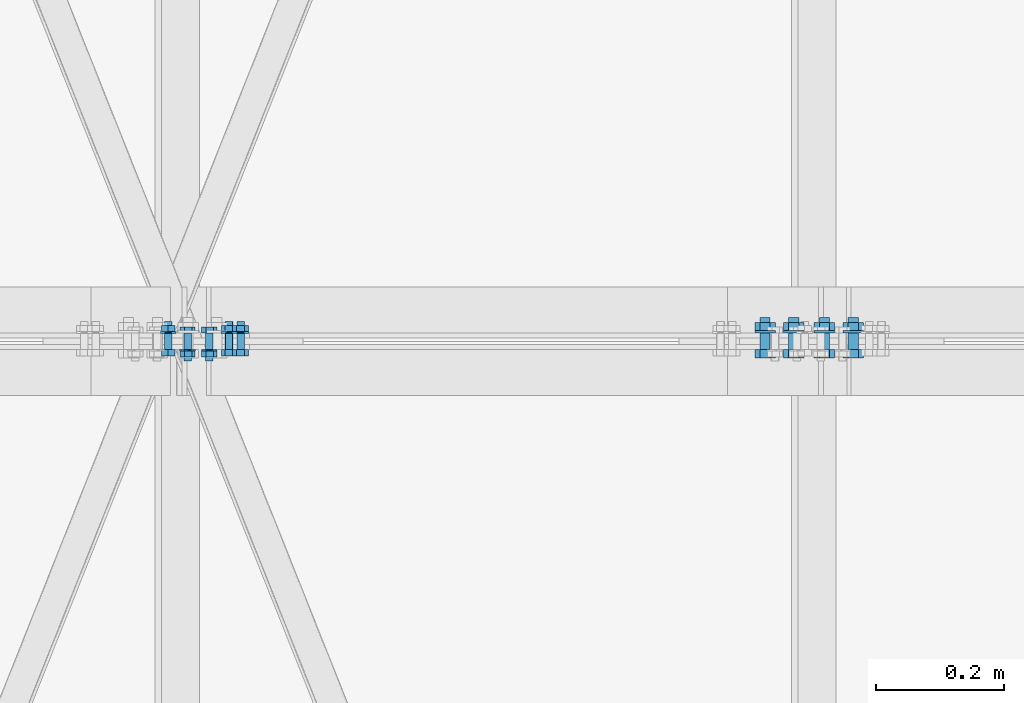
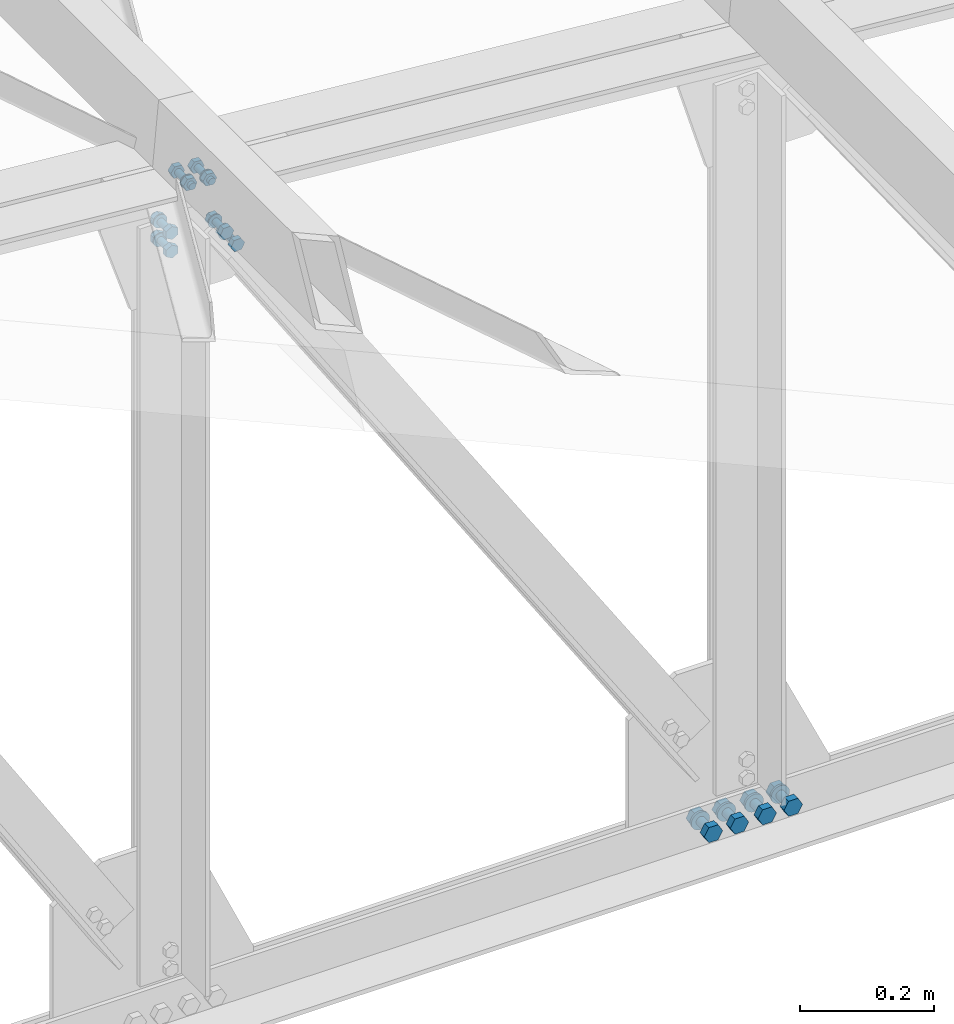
# One storey, part 151 of 251: 40 mechanical fasteners.
"""IFC4 building model written with IfcOpenShell, lengths in metres."""

from ifc_helpers import new_model, si_unit, frame, origin_with_axes, place, context, project, spatial, polyline, outline, extrude, type_object, element, save


model = new_model("IFC4")

# Units and contexts
model_context = context("Model", 3, precision=1e-05, world=origin_with_axes())
ifc_project = project(units=[si_unit("LENGTHUNIT", "METRE"), si_unit("AREAUNIT", "SQUARE_METRE"), si_unit("VOLUMEUNIT", "CUBIC_METRE"), si_unit("MASSUNIT", "GRAM", prefix="KILO"), si_unit("TIMEUNIT", "SECOND"), si_unit("PLANEANGLEUNIT", "RADIAN"), si_unit("SOLIDANGLEUNIT", "STERADIAN"), si_unit("THERMODYNAMICTEMPERATUREUNIT", "DEGREE_CELSIUS")], contexts=[model_context])

# Site, building, storey
placement_1 = place(None, origin_with_axes())
site = spatial("IfcSite", under=ifc_project, at=placement_1, Name="Italia", CompositionType="ELEMENT")
building = spatial("IfcBuilding", under=site, at=placement_1, Name="Deposito", CompositionType="ELEMENT")
storey = spatial("IfcBuildingStorey", under=building, at=placement_1, Name="Storey 0", CompositionType="ELEMENT", Elevation=0.0)

# Mechanical fasteners
mechanical_fastener_type_1 = type_object("IfcMechanicalFastenerType", Name="Reticolare 4", PredefinedType="BOLT")
placement_2 = place(placement_1, origin_with_axes())
mechanical_fastener_1_placement = place(placement_2, origin_with_axes())
element("IfcMechanicalFastener", 1, at=mechanical_fastener_1_placement, inside=storey, type_object=mechanical_fastener_type_1, Name="Reticolare 4", NominalDiameter=0.0159997, context=model_context, shape_type="SweptSolid", body=[
    extrude(outline(polyline([(0.0, 0.0), (-0.0159998, 0.0), (-0.0240002, 0.0138564), (-0.0159998, 0.0277128), (0.0, 0.0277128), (0.00799942, 0.0138564), (0.0, 0.0)])), frame((15.003, 9.987, 4.99714), z_axis=(0.0, -1.0, 0.0), x_axis=(1.0, 0.0, 0.0)), (0.0, 0.0, 1.0), 0.0128002),
])
mechanical_fastener_type_2 = type_object("IfcMechanicalFastenerType", Name="Reticolare 4", PredefinedType="BOLT")
mechanical_fastener_2_placement = place(placement_2, origin_with_axes())
element("IfcMechanicalFastener", 2, at=mechanical_fastener_2_placement, inside=storey, type_object=mechanical_fastener_type_2, Name="Reticolare 4", NominalDiameter=0.016, context=model_context, shape_type="SweptSolid", body=[
    extrude(outline(polyline([(0.0, 0.0), (-0.000272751, -0.00207043), (-0.00107193, -0.00400019), (-0.00234318, -0.00565672), (-0.00400066, -0.00692797), (-0.00592995, -0.00772762), (-0.00800037, -0.0079999), (-0.0100708, -0.00772762), (-0.0120001, -0.00692797), (-0.0136576, -0.00565672), (-0.0149288, -0.00400019), (-0.015728, -0.00207043), (-0.0160007, 0.0), (-0.015728, 0.00207043), (-0.0149288, 0.00400019), (-0.0136576, 0.00565672), (-0.0120001, 0.00692797), (-0.0100708, 0.00772762), (-0.00800037, 0.0079999), (-0.00592995, 0.00772762), (-0.00400066, 0.00692797), (-0.00234318, 0.00565672), (-0.00107193, 0.00400019), (-0.000272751, 0.00207043), (0.0, 0.0)])), frame((15.003, 10.037, 5.011), z_axis=(0.0, -1.0, 0.0), x_axis=(1.0, 0.0, 0.0)), (0.0, 0.0, 1.0), 0.0499992),
])
mechanical_fastener_type_3 = type_object("IfcMechanicalFastenerType", Name="Reticolare 4", PredefinedType="BOLT")
mechanical_fastener_3_placement = place(placement_2, origin_with_axes())
element("IfcMechanicalFastener", 3, at=mechanical_fastener_3_placement, inside=storey, type_object=mechanical_fastener_type_3, Name="Reticolare 4", NominalDiameter=0.0159997, context=model_context, shape_type="SweptSolid", body=[
    extrude(outline(polyline([(0.0, 0.0), (-0.0159998, 0.0), (-0.0240002, 0.0138564), (-0.0159998, 0.0277128), (0.0, 0.0277128), (0.00799942, 0.0138564), (0.0, 0.0)])), frame((15.003, 10.0298, 4.99714), z_axis=(0.0, -1.0, 0.0), x_axis=(1.0, 0.0, 0.0)), (0.0, 0.0, 1.0), 0.0128002),
])
mechanical_fastener_type_4 = type_object("IfcMechanicalFastenerType", Name="Reticolare 4", PredefinedType="BOLT")
mechanical_fastener_4_placement = place(placement_2, origin_with_axes())
element("IfcMechanicalFastener", 4, at=mechanical_fastener_4_placement, inside=storey, type_object=mechanical_fastener_type_4, Name="Reticolare 4", NominalDiameter=0.032, context=model_context, shape_type="SweptSolid", body=[
    extrude(outline(polyline([(0.0, 0.0), (-0.000544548, -0.00414133), (-0.00214386, -0.0079999), (-0.00468636, -0.0113139), (-0.00799942, -0.0138564), (-0.0118589, -0.0154548), (-0.0159998, -0.0159998), (-0.0201406, -0.0154548), (-0.0240002, -0.0138564), (-0.0273132, -0.0113139), (-0.0298557, -0.0079999), (-0.031455, -0.00414133), (-0.0319996, 0.0), (-0.031455, 0.00414133), (-0.0298557, 0.0079999), (-0.0273132, 0.0113139), (-0.0240002, 0.0138564), (-0.0201406, 0.0154548), (-0.0159998, 0.0159998), (-0.0118589, 0.0154548), (-0.00799942, 0.0138564), (-0.00468636, 0.0113139), (-0.00214386, 0.0079999), (-0.000544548, 0.00414133), (0.0, 0.0)])), frame((15.011, 10.017, 5.011), z_axis=(0.0, -1.0, 0.0), x_axis=(1.0, 0.0, 0.0)), (0.0, 0.0, 1.0), 0.00400066),
])
mechanical_fastener_type_5 = type_object("IfcMechanicalFastenerType", Name="Reticolare 4", PredefinedType="BOLT")
mechanical_fastener_5_placement = place(placement_2, origin_with_axes())
element("IfcMechanicalFastener", 5, at=mechanical_fastener_5_placement, inside=storey, type_object=mechanical_fastener_type_5, Name="Reticolare 4", NominalDiameter=0.0159997, context=model_context, shape_type="SweptSolid", body=[
    extrude(outline(polyline([(0.0, 0.0), (-0.0159998, 0.0), (-0.0240002, 0.0138564), (-0.0159998, 0.0277128), (0.0, 0.0277128), (0.00799942, 0.0138564), (0.0, 0.0)])), frame((14.958, 9.987, 4.99714), z_axis=(0.0, -1.0, 0.0), x_axis=(1.0, 0.0, 0.0)), (0.0, 0.0, 1.0), 0.0128002),
])
mechanical_fastener_type_6 = type_object("IfcMechanicalFastenerType", Name="Reticolare 4", PredefinedType="BOLT")
mechanical_fastener_6_placement = place(placement_2, origin_with_axes())
element("IfcMechanicalFastener", 6, at=mechanical_fastener_6_placement, inside=storey, type_object=mechanical_fastener_type_6, Name="Reticolare 4", NominalDiameter=0.016, context=model_context, shape_type="SweptSolid", body=[
    extrude(outline(polyline([(0.0, 0.0), (-0.000272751, -0.00207043), (-0.00107193, -0.00400019), (-0.00234318, -0.00565672), (-0.00400066, -0.00692797), (-0.00592995, -0.00772762), (-0.00800037, -0.0079999), (-0.0100708, -0.00772762), (-0.0120001, -0.00692797), (-0.0136576, -0.00565672), (-0.0149288, -0.00400019), (-0.015728, -0.00207043), (-0.0160007, 0.0), (-0.015728, 0.00207043), (-0.0149288, 0.00400019), (-0.0136576, 0.00565672), (-0.0120001, 0.00692797), (-0.0100708, 0.00772762), (-0.00800037, 0.0079999), (-0.00592995, 0.00772762), (-0.00400066, 0.00692797), (-0.00234318, 0.00565672), (-0.00107193, 0.00400019), (-0.000272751, 0.00207043), (0.0, 0.0)])), frame((14.958, 10.037, 5.011), z_axis=(0.0, -1.0, 0.0), x_axis=(1.0, 0.0, 0.0)), (0.0, 0.0, 1.0), 0.0499992),
])
mechanical_fastener_type_7 = type_object("IfcMechanicalFastenerType", Name="Reticolare 4", PredefinedType="BOLT")
mechanical_fastener_7_placement = place(placement_2, origin_with_axes())
element("IfcMechanicalFastener", 7, at=mechanical_fastener_7_placement, inside=storey, type_object=mechanical_fastener_type_7, Name="Reticolare 4", NominalDiameter=0.0159997, context=model_context, shape_type="SweptSolid", body=[
    extrude(outline(polyline([(0.0, 0.0), (-0.0159998, 0.0), (-0.0240002, 0.0138564), (-0.0159998, 0.0277128), (0.0, 0.0277128), (0.00799942, 0.0138564), (0.0, 0.0)])), frame((14.958, 10.0298, 4.99714), z_axis=(0.0, -1.0, 0.0), x_axis=(1.0, 0.0, 0.0)), (0.0, 0.0, 1.0), 0.0128002),
])
mechanical_fastener_type_8 = type_object("IfcMechanicalFastenerType", Name="Reticolare 4", PredefinedType="BOLT")
mechanical_fastener_8_placement = place(placement_2, origin_with_axes())
element("IfcMechanicalFastener", 8, at=mechanical_fastener_8_placement, inside=storey, type_object=mechanical_fastener_type_8, Name="Reticolare 4", NominalDiameter=0.032, context=model_context, shape_type="SweptSolid", body=[
    extrude(outline(polyline([(0.0, 0.0), (-0.000544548, -0.00414133), (-0.00214386, -0.0079999), (-0.00468636, -0.0113139), (-0.00799942, -0.0138564), (-0.0118589, -0.0154548), (-0.0159998, -0.0159998), (-0.0201406, -0.0154548), (-0.0240002, -0.0138564), (-0.0273132, -0.0113139), (-0.0298557, -0.0079999), (-0.031455, -0.00414133), (-0.0319996, 0.0), (-0.031455, 0.00414133), (-0.0298557, 0.0079999), (-0.0273132, 0.0113139), (-0.0240002, 0.0138564), (-0.0201406, 0.0154548), (-0.0159998, 0.0159998), (-0.0118589, 0.0154548), (-0.00799942, 0.0138564), (-0.00468636, 0.0113139), (-0.00214386, 0.0079999), (-0.000544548, 0.00414133), (0.0, 0.0)])), frame((14.966, 10.017, 5.011), z_axis=(0.0, -1.0, 0.0), x_axis=(1.0, 0.0, 0.0)), (0.0, 0.0, 1.0), 0.00400066),
])
mechanical_fastener_type_9 = type_object("IfcMechanicalFastenerType", Name="Reticolare 4", PredefinedType="BOLT")
mechanical_fastener_9_placement = place(placement_2, origin_with_axes())
element("IfcMechanicalFastener", 9, at=mechanical_fastener_9_placement, inside=storey, type_object=mechanical_fastener_type_9, Name="Reticolare 4", NominalDiameter=0.0159997, context=model_context, shape_type="SweptSolid", body=[
    extrude(outline(polyline([(0.0, 0.0), (-0.0159998, 0.0), (-0.0239992, 0.0138564), (-0.0159998, 0.0277128), (0.0, 0.0277128), (0.00800037, 0.0138564), (0.0, 0.0)])), frame((15.051, 9.987, 4.99714), z_axis=(0.0, -1.0, 0.0), x_axis=(1.0, 0.0, 0.0)), (0.0, 0.0, 1.0), 0.0128002),
])
mechanical_fastener_type_10 = type_object("IfcMechanicalFastenerType", Name="Reticolare 4", PredefinedType="BOLT")
mechanical_fastener_10_placement = place(placement_2, origin_with_axes())
element("IfcMechanicalFastener", 10, at=mechanical_fastener_10_placement, inside=storey, type_object=mechanical_fastener_type_10, Name="Reticolare 4", NominalDiameter=0.016, context=model_context, shape_type="SweptSolid", body=[
    extrude(outline(polyline([(0.0, 0.0), (-0.000272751, -0.00207043), (-0.00107193, -0.00400019), (-0.00234318, -0.00565672), (-0.00400066, -0.00692797), (-0.00592995, -0.00772762), (-0.00800037, -0.0079999), (-0.0100708, -0.00772762), (-0.0120001, -0.00692797), (-0.0136576, -0.00565672), (-0.0149288, -0.00400019), (-0.015728, -0.00207043), (-0.0160007, 0.0), (-0.015728, 0.00207043), (-0.0149288, 0.00400019), (-0.0136576, 0.00565672), (-0.0120001, 0.00692797), (-0.0100708, 0.00772762), (-0.00800037, 0.0079999), (-0.00592995, 0.00772762), (-0.00400066, 0.00692797), (-0.00234318, 0.00565672), (-0.00107193, 0.00400019), (-0.000272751, 0.00207043), (0.0, 0.0)])), frame((15.051, 10.037, 5.011), z_axis=(0.0, -1.0, 0.0), x_axis=(1.0, 0.0, 0.0)), (0.0, 0.0, 1.0), 0.0499992),
])
mechanical_fastener_type_11 = type_object("IfcMechanicalFastenerType", Name="Reticolare 4", PredefinedType="BOLT")
mechanical_fastener_11_placement = place(placement_2, origin_with_axes())
element("IfcMechanicalFastener", 11, at=mechanical_fastener_11_placement, inside=storey, type_object=mechanical_fastener_type_11, Name="Reticolare 4", NominalDiameter=0.0159997, context=model_context, shape_type="SweptSolid", body=[
    extrude(outline(polyline([(0.0, 0.0), (-0.0159998, 0.0), (-0.0239992, 0.0138564), (-0.0159998, 0.0277128), (0.0, 0.0277128), (0.00800037, 0.0138564), (0.0, 0.0)])), frame((15.051, 10.0298, 4.99714), z_axis=(0.0, -1.0, 0.0), x_axis=(1.0, 0.0, 0.0)), (0.0, 0.0, 1.0), 0.0128002),
])
mechanical_fastener_type_12 = type_object("IfcMechanicalFastenerType", Name="Reticolare 4", PredefinedType="BOLT")
mechanical_fastener_12_placement = place(placement_2, origin_with_axes())
element("IfcMechanicalFastener", 12, at=mechanical_fastener_12_placement, inside=storey, type_object=mechanical_fastener_type_12, Name="Reticolare 4", NominalDiameter=0.032, context=model_context, shape_type="SweptSolid", body=[
    extrude(outline(polyline([(0.0, 0.0), (-0.000544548, -0.00414133), (-0.00214386, -0.0079999), (-0.00468636, -0.0113139), (-0.00799942, -0.0138564), (-0.0118589, -0.0154548), (-0.0159998, -0.0159998), (-0.0201406, -0.0154548), (-0.0240002, -0.0138564), (-0.0273132, -0.0113139), (-0.0298557, -0.0079999), (-0.031455, -0.00414133), (-0.0319996, 0.0), (-0.031455, 0.00414133), (-0.0298557, 0.0079999), (-0.0273132, 0.0113139), (-0.0240002, 0.0138564), (-0.0201406, 0.0154548), (-0.0159998, 0.0159998), (-0.0118589, 0.0154548), (-0.00799942, 0.0138564), (-0.00468636, 0.0113139), (-0.00214386, 0.0079999), (-0.000544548, 0.00414133), (0.0, 0.0)])), frame((15.059, 10.017, 5.011), z_axis=(0.0, -1.0, 0.0), x_axis=(1.0, 0.0, 0.0)), (0.0, 0.0, 1.0), 0.00400066),
])
mechanical_fastener_type_13 = type_object("IfcMechanicalFastenerType", Name="Reticolare 4", PredefinedType="BOLT")
mechanical_fastener_13_placement = place(placement_2, origin_with_axes())
element("IfcMechanicalFastener", 13, at=mechanical_fastener_13_placement, inside=storey, type_object=mechanical_fastener_type_13, Name="Reticolare 4", NominalDiameter=0.0159997, context=model_context, shape_type="SweptSolid", body=[
    extrude(outline(polyline([(0.0, 0.0), (-0.0159998, 0.0), (-0.0239992, 0.0138564), (-0.0159998, 0.0277128), (0.0, 0.0277128), (0.00800037, 0.0138564), (0.0, 0.0)])), frame((15.096, 9.987, 4.99714), z_axis=(0.0, -1.0, 0.0), x_axis=(1.0, 0.0, 0.0)), (0.0, 0.0, 1.0), 0.0128002),
])
mechanical_fastener_type_14 = type_object("IfcMechanicalFastenerType", Name="Reticolare 4", PredefinedType="BOLT")
mechanical_fastener_14_placement = place(placement_2, origin_with_axes())
element("IfcMechanicalFastener", 14, at=mechanical_fastener_14_placement, inside=storey, type_object=mechanical_fastener_type_14, Name="Reticolare 4", NominalDiameter=0.016, context=model_context, shape_type="SweptSolid", body=[
    extrude(outline(polyline([(0.0, 0.0), (-0.000272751, -0.00207043), (-0.00107193, -0.00400019), (-0.00234318, -0.00565672), (-0.00400066, -0.00692797), (-0.00592995, -0.00772762), (-0.00800037, -0.0079999), (-0.0100708, -0.00772762), (-0.0120001, -0.00692797), (-0.0136576, -0.00565672), (-0.0149288, -0.00400019), (-0.015728, -0.00207043), (-0.0160007, 0.0), (-0.015728, 0.00207043), (-0.0149288, 0.00400019), (-0.0136576, 0.00565672), (-0.0120001, 0.00692797), (-0.0100708, 0.00772762), (-0.00800037, 0.0079999), (-0.00592995, 0.00772762), (-0.00400066, 0.00692797), (-0.00234318, 0.00565672), (-0.00107193, 0.00400019), (-0.000272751, 0.00207043), (0.0, 0.0)])), frame((15.096, 10.037, 5.011), z_axis=(0.0, -1.0, 0.0), x_axis=(1.0, 0.0, 0.0)), (0.0, 0.0, 1.0), 0.0499992),
])
mechanical_fastener_type_15 = type_object("IfcMechanicalFastenerType", Name="Reticolare 4", PredefinedType="BOLT")
mechanical_fastener_15_placement = place(placement_2, origin_with_axes())
element("IfcMechanicalFastener", 15, at=mechanical_fastener_15_placement, inside=storey, type_object=mechanical_fastener_type_15, Name="Reticolare 4", NominalDiameter=0.0159997, context=model_context, shape_type="SweptSolid", body=[
    extrude(outline(polyline([(0.0, 0.0), (-0.0159998, 0.0), (-0.0239992, 0.0138564), (-0.0159998, 0.0277128), (0.0, 0.0277128), (0.00800037, 0.0138564), (0.0, 0.0)])), frame((15.096, 10.0298, 4.99714), z_axis=(0.0, -1.0, 0.0), x_axis=(1.0, 0.0, 0.0)), (0.0, 0.0, 1.0), 0.0128002),
])
mechanical_fastener_type_16 = type_object("IfcMechanicalFastenerType", Name="Reticolare 4", PredefinedType="BOLT")
mechanical_fastener_16_placement = place(placement_2, origin_with_axes())
element("IfcMechanicalFastener", 16, at=mechanical_fastener_16_placement, inside=storey, type_object=mechanical_fastener_type_16, Name="Reticolare 4", NominalDiameter=0.032, context=model_context, shape_type="SweptSolid", body=[
    extrude(outline(polyline([(0.0, 0.0), (-0.000544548, -0.00414133), (-0.00214386, -0.0079999), (-0.00468636, -0.0113139), (-0.00799942, -0.0138564), (-0.0118589, -0.0154548), (-0.0159998, -0.0159998), (-0.0201406, -0.0154548), (-0.0240002, -0.0138564), (-0.0273132, -0.0113139), (-0.0298557, -0.0079999), (-0.031455, -0.00414133), (-0.0319996, 0.0), (-0.031455, 0.00414133), (-0.0298557, 0.0079999), (-0.0273132, 0.0113139), (-0.0240002, 0.0138564), (-0.0201406, 0.0154548), (-0.0159998, 0.0159998), (-0.0118589, 0.0154548), (-0.00799942, 0.0138564), (-0.00468636, 0.0113139), (-0.00214386, 0.0079999), (-0.000544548, 0.00414133), (0.0, 0.0)])), frame((15.104, 10.017, 5.011), z_axis=(0.0, -1.0, 0.0), x_axis=(1.0, 0.0, 0.0)), (0.0, 0.0, 1.0), 0.00400066),
])
mechanical_fastener_type_17 = type_object("IfcMechanicalFastenerType", Name="Reticolare 4", PredefinedType="BOLT")
mechanical_fastener_17_placement = place(placement_2, origin_with_axes())
element("IfcMechanicalFastener", 17, at=mechanical_fastener_17_placement, inside=storey, type_object=mechanical_fastener_type_17, Name="Reticolare 4", NominalDiameter=0.0119997, context=model_context, shape_type="SweptSolid", body=[
    extrude(outline(polyline([(0.0, 0.0), (0.0119543, 0.0010457), (0.0188379, -0.00878429), (0.0137663, -0.01966), (0.00181198, -0.0207057), (-0.00507069, -0.0108757), (0.0, 0.0)])), frame((14.053, 10.013, 6.5237), z_axis=(0.0, 1.0, 0.0), x_axis=(-1.0, 0.0, 0.0)), (0.0, 0.0, 1.0), 0.00960064),
])
mechanical_fastener_type_18 = type_object("IfcMechanicalFastenerType", Name="Reticolare 4", PredefinedType="BOLT")
mechanical_fastener_18_placement = place(placement_2, origin_with_axes())
element("IfcMechanicalFastener", 18, at=mechanical_fastener_18_placement, inside=storey, type_object=mechanical_fastener_type_18, Name="Reticolare 4", NominalDiameter=0.012, context=model_context, shape_type="SweptSolid", body=[
    extrude(outline(polyline([(0.0, 0.0), (-0.000204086, -0.00155306), (-0.000802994, -0.00299978), (-0.00175667, -0.00424242), (-0.00299931, -0.00519609), (-0.00444698, -0.00579548), (-0.00599957, -0.00600004), (-0.00755215, -0.00579548), (-0.00899982, -0.00519609), (-0.0102425, -0.00424242), (-0.0111961, -0.00299978), (-0.011795, -0.00155306), (-0.0119991, 0.0), (-0.011795, 0.00155306), (-0.0111961, 0.00299978), (-0.0102425, 0.00424242), (-0.00899982, 0.00519609), (-0.00755215, 0.00579548), (-0.00599957, 0.00600004), (-0.00444698, 0.00579548), (-0.00299931, 0.00519609), (-0.00175667, 0.00424242), (-0.000802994, 0.00299978), (-0.000204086, 0.00155306), (0.0, 0.0)])), frame((14.0402, 9.969, 6.51387), z_axis=(0.0, 1.0, 0.0), x_axis=(-1.0, 0.0, 0.0)), (0.0, 0.0, 1.0), 0.0439997),
])
mechanical_fastener_type_19 = type_object("IfcMechanicalFastenerType", Name="Reticolare 4", PredefinedType="BOLT")
mechanical_fastener_19_placement = place(placement_2, origin_with_axes())
element("IfcMechanicalFastener", 19, at=mechanical_fastener_19_placement, inside=storey, type_object=mechanical_fastener_type_19, Name="Reticolare 4", NominalDiameter=0.0119997, context=model_context, shape_type="SweptSolid", body=[
    extrude(outline(polyline([(0.0, 0.0), (0.0119543, 0.0010457), (0.0188379, -0.00878429), (0.0137663, -0.01966), (0.00181198, -0.0207057), (-0.00507069, -0.0108757), (0.0, 0.0)])), frame((14.053, 9.9754, 6.5237), z_axis=(0.0, 1.0, 0.0), x_axis=(-1.0, 0.0, 0.0)), (0.0, 0.0, 1.0), 0.00959969),
])
mechanical_fastener_type_20 = type_object("IfcMechanicalFastenerType", Name="Reticolare 4", PredefinedType="BOLT")
mechanical_fastener_20_placement = place(placement_2, origin_with_axes())
element("IfcMechanicalFastener", 20, at=mechanical_fastener_20_placement, inside=storey, type_object=mechanical_fastener_type_20, Name="Reticolare 4", NominalDiameter=0.024, context=model_context, shape_type="SweptSolid", body=[
    extrude(outline(polyline([(0.0, 0.0), (-0.000409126, -0.00310564), (-0.00160789, -0.00600004), (-0.00351524, -0.00848532), (-0.00600052, -0.0103922), (-0.00889397, -0.011591), (-0.0120001, -0.0120001), (-0.0151062, -0.011591), (-0.0179996, -0.0103922), (-0.0204849, -0.00848532), (-0.0223923, -0.00600004), (-0.023591, -0.00310564), (-0.0240002, 0.0), (-0.023591, 0.00310564), (-0.0223923, 0.00600004), (-0.0204849, 0.00848532), (-0.0179996, 0.0103922), (-0.0151062, 0.011591), (-0.0120001, 0.0120001), (-0.00889397, 0.011591), (-0.00600052, 0.0103922), (-0.00351524, 0.00848532), (-0.00160789, 0.00600004), (-0.000409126, 0.00310564), (0.0, 0.0)])), frame((14.0342, 9.985, 6.51387), z_axis=(0.0, 1.0, 0.0), x_axis=(-1.0, 0.0, 0.0)), (0.0, 0.0, 1.0), 0.00200081),
])
mechanical_fastener_type_21 = type_object("IfcMechanicalFastenerType", Name="Reticolare 4", PredefinedType="BOLT")
mechanical_fastener_21_placement = place(placement_2, origin_with_axes())
element("IfcMechanicalFastener", 21, at=mechanical_fastener_21_placement, inside=storey, type_object=mechanical_fastener_type_21, Name="Reticolare 4", NominalDiameter=0.0119996, context=model_context, shape_type="SweptSolid", body=[
    extrude(outline(polyline([(0.0, 0.0), (0.0119543, 0.0010457), (0.0188379, -0.00878382), (0.0137663, -0.0196595), (0.00181198, -0.0207052), (-0.00507069, -0.0108757), (0.0, 0.0)])), frame((14.0869, 10.013, 6.52073), z_axis=(0.0, 1.0, 0.0), x_axis=(-1.0, 0.0, 0.0)), (0.0, 0.0, 1.0), 0.00960064),
])
mechanical_fastener_type_22 = type_object("IfcMechanicalFastenerType", Name="Reticolare 4", PredefinedType="BOLT")
mechanical_fastener_22_placement = place(placement_2, origin_with_axes())
element("IfcMechanicalFastener", 22, at=mechanical_fastener_22_placement, inside=storey, type_object=mechanical_fastener_type_22, Name="Reticolare 4", NominalDiameter=0.012, context=model_context, shape_type="SweptSolid", body=[
    extrude(outline(polyline([(0.0, 0.0), (-0.000204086, -0.00155306), (-0.000802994, -0.00299978), (-0.00175667, -0.00424242), (-0.00299931, -0.00519609), (-0.00444698, -0.00579548), (-0.00599957, -0.00600004), (-0.00755215, -0.00579548), (-0.00899982, -0.00519609), (-0.0102425, -0.00424242), (-0.0111961, -0.00299978), (-0.011795, -0.00155306), (-0.0119991, 0.0), (-0.011795, 0.00155306), (-0.0111961, 0.00299978), (-0.0102425, 0.00424242), (-0.00899982, 0.00519609), (-0.00755215, 0.00579548), (-0.00599957, 0.00600004), (-0.00444698, 0.00579548), (-0.00299931, 0.00519609), (-0.00175667, 0.00424242), (-0.000802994, 0.00299978), (-0.000204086, 0.00155306), (0.0, 0.0)])), frame((14.074, 9.969, 6.5109), z_axis=(0.0, 1.0, 0.0), x_axis=(-1.0, 0.0, 0.0)), (0.0, 0.0, 1.0), 0.0439997),
])
mechanical_fastener_type_23 = type_object("IfcMechanicalFastenerType", Name="Reticolare 4", PredefinedType="BOLT")
mechanical_fastener_23_placement = place(placement_2, origin_with_axes())
element("IfcMechanicalFastener", 23, at=mechanical_fastener_23_placement, inside=storey, type_object=mechanical_fastener_type_23, Name="Reticolare 4", NominalDiameter=0.0119996, context=model_context, shape_type="SweptSolid", body=[
    extrude(outline(polyline([(0.0, 0.0), (0.0119543, 0.0010457), (0.0188379, -0.00878382), (0.0137663, -0.0196595), (0.00181198, -0.0207052), (-0.00507069, -0.0108757), (0.0, 0.0)])), frame((14.0869, 9.9754, 6.52073), z_axis=(0.0, 1.0, 0.0), x_axis=(-1.0, 0.0, 0.0)), (0.0, 0.0, 1.0), 0.00959969),
])
mechanical_fastener_type_24 = type_object("IfcMechanicalFastenerType", Name="Reticolare 4", PredefinedType="BOLT")
mechanical_fastener_24_placement = place(placement_2, origin_with_axes())
element("IfcMechanicalFastener", 24, at=mechanical_fastener_24_placement, inside=storey, type_object=mechanical_fastener_type_24, Name="Reticolare 4", NominalDiameter=0.024, context=model_context, shape_type="SweptSolid", body=[
    extrude(outline(polyline([(0.0, 0.0), (-0.000409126, -0.00310564), (-0.00160789, -0.00600004), (-0.00351524, -0.00848532), (-0.00600052, -0.0103922), (-0.00889397, -0.011591), (-0.0120001, -0.0120001), (-0.0151062, -0.011591), (-0.0179996, -0.0103922), (-0.0204849, -0.00848532), (-0.0223923, -0.00600004), (-0.023591, -0.00310564), (-0.0240002, 0.0), (-0.023591, 0.00310564), (-0.0223923, 0.00600004), (-0.0204849, 0.00848532), (-0.0179996, 0.0103922), (-0.0151062, 0.011591), (-0.0120001, 0.0120001), (-0.00889397, 0.011591), (-0.00600052, 0.0103922), (-0.00351524, 0.00848532), (-0.00160789, 0.00600004), (-0.000409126, 0.00310564), (0.0, 0.0)])), frame((14.068, 9.985, 6.5109), z_axis=(0.0, 1.0, 0.0), x_axis=(-1.0, 0.0, 0.0)), (0.0, 0.0, 1.0), 0.00200081),
])
mechanical_fastener_type_25 = type_object("IfcMechanicalFastenerType", Name="Reticolare 4", PredefinedType="BOLT")
mechanical_fastener_25_placement = place(placement_2, origin_with_axes())
element("IfcMechanicalFastener", 25, at=mechanical_fastener_25_placement, inside=storey, type_object=mechanical_fastener_type_25, Name="Reticolare 4", NominalDiameter=0.0119999, context=model_context, shape_type="SweptSolid", body=[
    extrude(outline(polyline([(0.0, 0.0), (0.0, -0.0120001), (-0.0103922, -0.0180001), (-0.0207844, -0.0120001), (-0.0207844, 0.0), (-0.0103922, 0.00600004), (0.0, 0.0)])), frame((14.0262, 9.987, 6.44017), z_axis=(0.0, -1.0, 0.0), x_axis=(1.0, 0.0, 0.0)), (0.0, 0.0, 1.0), 0.00960064),
])
mechanical_fastener_type_26 = type_object("IfcMechanicalFastenerType", Name="Reticolare 4", PredefinedType="BOLT")
mechanical_fastener_26_placement = place(placement_2, origin_with_axes())
element("IfcMechanicalFastener", 26, at=mechanical_fastener_26_placement, inside=storey, type_object=mechanical_fastener_type_26, Name="Reticolare 4", NominalDiameter=0.012, context=model_context, shape_type="SweptSolid", body=[
    extrude(outline(polyline([(0.0, 0.0), (-0.000204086, -0.00155306), (-0.000802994, -0.00299978), (-0.00175667, -0.00424242), (-0.00299931, -0.00519609), (-0.00444698, -0.00579548), (-0.00599957, -0.00600004), (-0.00755215, -0.00579548), (-0.00899982, -0.00519609), (-0.0102425, -0.00424242), (-0.0111961, -0.00299978), (-0.011795, -0.00155306), (-0.0119991, 0.0), (-0.011795, 0.00155306), (-0.0111961, 0.00299978), (-0.0102425, 0.00424242), (-0.00899982, 0.00519609), (-0.00755215, 0.00579548), (-0.00599957, 0.00600004), (-0.00444698, 0.00579548), (-0.00299931, 0.00519609), (-0.00175667, 0.00424242), (-0.000802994, 0.00299978), (-0.000204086, 0.00155306), (0.0, 0.0)])), frame((14.0218, 10.031, 6.43417), z_axis=(0.0, -1.0, 0.0), x_axis=(1.0, 0.0, 0.0)), (0.0, 0.0, 1.0), 0.0439997),
])
mechanical_fastener_type_27 = type_object("IfcMechanicalFastenerType", Name="Reticolare 4", PredefinedType="BOLT")
mechanical_fastener_27_placement = place(placement_2, origin_with_axes())
element("IfcMechanicalFastener", 27, at=mechanical_fastener_27_placement, inside=storey, type_object=mechanical_fastener_type_27, Name="Reticolare 4", NominalDiameter=0.0119999, context=model_context, shape_type="SweptSolid", body=[
    extrude(outline(polyline([(0.0, 0.0), (0.0, -0.0120001), (-0.0103922, -0.0180001), (-0.0207844, -0.0120001), (-0.0207844, 0.0), (-0.0103922, 0.00600004), (0.0, 0.0)])), frame((14.0262, 10.0246, 6.44017), z_axis=(0.0, -1.0, 0.0), x_axis=(1.0, 0.0, 0.0)), (0.0, 0.0, 1.0), 0.00959969),
])
mechanical_fastener_type_28 = type_object("IfcMechanicalFastenerType", Name="Reticolare 4", PredefinedType="BOLT")
mechanical_fastener_28_placement = place(placement_2, origin_with_axes())
element("IfcMechanicalFastener", 28, at=mechanical_fastener_28_placement, inside=storey, type_object=mechanical_fastener_type_28, Name="Reticolare 4", NominalDiameter=0.024, context=model_context, shape_type="SweptSolid", body=[
    extrude(outline(polyline([(0.0, 0.0), (-0.000409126, -0.00310564), (-0.00160789, -0.00600004), (-0.00351524, -0.00848532), (-0.00600052, -0.0103922), (-0.00889397, -0.011591), (-0.0120001, -0.0120001), (-0.0151062, -0.011591), (-0.0179996, -0.0103922), (-0.0204849, -0.00848532), (-0.0223923, -0.00600004), (-0.023591, -0.00310564), (-0.0240002, 0.0), (-0.023591, 0.00310564), (-0.0223923, 0.00600004), (-0.0204849, 0.00848532), (-0.0179996, 0.0103922), (-0.0151062, 0.011591), (-0.0120001, 0.0120001), (-0.00889397, 0.011591), (-0.00600052, 0.0103922), (-0.00351524, 0.00848532), (-0.00160789, 0.00600004), (-0.000409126, 0.00310564), (0.0, 0.0)])), frame((14.0278, 10.015, 6.43417), z_axis=(0.0, -1.0, 0.0), x_axis=(1.0, 0.0, 0.0)), (0.0, 0.0, 1.0), 0.00200081),
])
mechanical_fastener_type_29 = type_object("IfcMechanicalFastenerType", Name="Reticolare 4", PredefinedType="BOLT")
mechanical_fastener_29_placement = place(placement_2, origin_with_axes())
element("IfcMechanicalFastener", 29, at=mechanical_fastener_29_placement, inside=storey, type_object=mechanical_fastener_type_29, Name="Reticolare 4", NominalDiameter=0.0119999, context=model_context, shape_type="SweptSolid", body=[
    extrude(outline(polyline([(0.0, 0.0), (0.0, -0.0120001), (-0.0103922, -0.0180001), (-0.0207844, -0.0120001), (-0.0207844, 0.0), (-0.0103922, 0.00600004), (0.0, 0.0)])), frame((14.0262, 9.987, 6.40617), z_axis=(0.0, -1.0, 0.0), x_axis=(1.0, 0.0, 0.0)), (0.0, 0.0, 1.0), 0.00960064),
])
mechanical_fastener_type_30 = type_object("IfcMechanicalFastenerType", Name="Reticolare 4", PredefinedType="BOLT")
mechanical_fastener_30_placement = place(placement_2, origin_with_axes())
element("IfcMechanicalFastener", 30, at=mechanical_fastener_30_placement, inside=storey, type_object=mechanical_fastener_type_30, Name="Reticolare 4", NominalDiameter=0.012, context=model_context, shape_type="SweptSolid", body=[
    extrude(outline(polyline([(0.0, 0.0), (-0.000204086, -0.00155306), (-0.000802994, -0.00299978), (-0.00175667, -0.00424242), (-0.00299931, -0.00519609), (-0.00444698, -0.00579548), (-0.00599957, -0.00600004), (-0.00755215, -0.00579548), (-0.00899982, -0.00519609), (-0.0102425, -0.00424242), (-0.0111961, -0.00299978), (-0.011795, -0.00155306), (-0.0119991, 0.0), (-0.011795, 0.00155306), (-0.0111961, 0.00299978), (-0.0102425, 0.00424242), (-0.00899982, 0.00519609), (-0.00755215, 0.00579548), (-0.00599957, 0.00600004), (-0.00444698, 0.00579548), (-0.00299931, 0.00519609), (-0.00175667, 0.00424242), (-0.000802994, 0.00299978), (-0.000204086, 0.00155306), (0.0, 0.0)])), frame((14.0218, 10.031, 6.40017), z_axis=(0.0, -1.0, 0.0), x_axis=(1.0, 0.0, 0.0)), (0.0, 0.0, 1.0), 0.0439997),
])
mechanical_fastener_type_31 = type_object("IfcMechanicalFastenerType", Name="Reticolare 4", PredefinedType="BOLT")
mechanical_fastener_31_placement = place(placement_2, origin_with_axes())
element("IfcMechanicalFastener", 31, at=mechanical_fastener_31_placement, inside=storey, type_object=mechanical_fastener_type_31, Name="Reticolare 4", NominalDiameter=0.0119999, context=model_context, shape_type="SweptSolid", body=[
    extrude(outline(polyline([(0.0, 0.0), (0.0, -0.0120001), (-0.0103922, -0.0180001), (-0.0207844, -0.0120001), (-0.0207844, 0.0), (-0.0103922, 0.00600004), (0.0, 0.0)])), frame((14.0262, 10.0246, 6.40617), z_axis=(0.0, -1.0, 0.0), x_axis=(1.0, 0.0, 0.0)), (0.0, 0.0, 1.0), 0.00959969),
])
mechanical_fastener_type_32 = type_object("IfcMechanicalFastenerType", Name="Reticolare 4", PredefinedType="BOLT")
mechanical_fastener_32_placement = place(placement_2, origin_with_axes())
element("IfcMechanicalFastener", 32, at=mechanical_fastener_32_placement, inside=storey, type_object=mechanical_fastener_type_32, Name="Reticolare 4", NominalDiameter=0.024, context=model_context, shape_type="SweptSolid", body=[
    extrude(outline(polyline([(0.0, 0.0), (-0.000409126, -0.00310564), (-0.00160789, -0.00600004), (-0.00351524, -0.00848532), (-0.00600052, -0.0103922), (-0.00889397, -0.011591), (-0.0120001, -0.0120001), (-0.0151062, -0.011591), (-0.0179996, -0.0103922), (-0.0204849, -0.00848532), (-0.0223923, -0.00600004), (-0.023591, -0.00310564), (-0.0240002, 0.0), (-0.023591, 0.00310564), (-0.0223923, 0.00600004), (-0.0204849, 0.00848532), (-0.0179996, 0.0103922), (-0.0151062, 0.011591), (-0.0120001, 0.0120001), (-0.00889397, 0.011591), (-0.00600052, 0.0103922), (-0.00351524, 0.00848532), (-0.00160789, 0.00600004), (-0.000409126, 0.00310564), (0.0, 0.0)])), frame((14.0278, 10.015, 6.40017), z_axis=(0.0, -1.0, 0.0), x_axis=(1.0, 0.0, 0.0)), (0.0, 0.0, 1.0), 0.00200081),
])
mechanical_fastener_type_33 = type_object("IfcMechanicalFastenerType", Name="Reticolare 4", PredefinedType="BOLT")
mechanical_fastener_33_placement = place(placement_2, origin_with_axes())
element("IfcMechanicalFastener", 33, at=mechanical_fastener_33_placement, inside=storey, type_object=mechanical_fastener_type_33, Name="Reticolare 4", NominalDiameter=0.0119996, context=model_context, shape_type="SweptSolid", body=[
    extrude(outline(polyline([(0.0, 0.0), (-0.00656891, 0.0100422), (-0.00115585, 0.0207524), (0.0108252, 0.02142), (0.0173941, 0.0113778), (0.011982, 0.000667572), (0.0, 0.0)])), frame((14.1055, 9.987, 6.39041), z_axis=(0.0, -1.0, 0.0), x_axis=(1.0, 0.0, 0.0)), (0.0, 0.0, 1.0), 0.00960064),
])
mechanical_fastener_type_34 = type_object("IfcMechanicalFastenerType", Name="Reticolare 4", PredefinedType="BOLT")
mechanical_fastener_34_placement = place(placement_2, origin_with_axes())
element("IfcMechanicalFastener", 34, at=mechanical_fastener_34_placement, inside=storey, type_object=mechanical_fastener_type_34, Name="Reticolare 4", NominalDiameter=0.012, context=model_context, shape_type="SweptSolid", body=[
    extrude(outline(polyline([(0.0, 0.0), (-0.000204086, -0.00155306), (-0.000802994, -0.00299978), (-0.00175667, -0.00424242), (-0.00299931, -0.00519609), (-0.00444698, -0.00579548), (-0.00599957, -0.00600004), (-0.00755215, -0.00579548), (-0.00899982, -0.00519609), (-0.0102425, -0.00424242), (-0.0111961, -0.00299978), (-0.011795, -0.00155306), (-0.0119991, 0.0), (-0.011795, 0.00155306), (-0.0111961, 0.00299978), (-0.0102425, 0.00424242), (-0.00899982, 0.00519609), (-0.00755215, 0.00579548), (-0.00599957, 0.00600004), (-0.00444698, 0.00579548), (-0.00299931, 0.00519609), (-0.00175667, 0.00424242), (-0.000802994, 0.00299978), (-0.000204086, 0.00155306), (0.0, 0.0)])), frame((14.1169, 10.031, 6.40112), z_axis=(0.0, -1.0, 0.0), x_axis=(1.0, 0.0, 0.0)), (0.0, 0.0, 1.0), 0.0439997),
])
mechanical_fastener_type_35 = type_object("IfcMechanicalFastenerType", Name="Reticolare 4", PredefinedType="BOLT")
mechanical_fastener_35_placement = place(placement_2, origin_with_axes())
element("IfcMechanicalFastener", 35, at=mechanical_fastener_35_placement, inside=storey, type_object=mechanical_fastener_type_35, Name="Reticolare 4", NominalDiameter=0.0119996, context=model_context, shape_type="SweptSolid", body=[
    extrude(outline(polyline([(0.0, 0.0), (-0.00656891, 0.0100422), (-0.00115585, 0.0207524), (0.0108252, 0.02142), (0.0173941, 0.0113778), (0.011982, 0.000667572), (0.0, 0.0)])), frame((14.1055, 10.0246, 6.39041), z_axis=(0.0, -1.0, 0.0), x_axis=(1.0, 0.0, 0.0)), (0.0, 0.0, 1.0), 0.00959969),
])
mechanical_fastener_type_36 = type_object("IfcMechanicalFastenerType", Name="Reticolare 4", PredefinedType="BOLT")
mechanical_fastener_36_placement = place(placement_2, origin_with_axes())
element("IfcMechanicalFastener", 36, at=mechanical_fastener_36_placement, inside=storey, type_object=mechanical_fastener_type_36, Name="Reticolare 4", NominalDiameter=0.024, context=model_context, shape_type="SweptSolid", body=[
    extrude(outline(polyline([(0.0, 0.0), (-0.000409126, -0.00310564), (-0.00160789, -0.00600004), (-0.00351524, -0.00848532), (-0.00600052, -0.0103922), (-0.00889397, -0.011591), (-0.0120001, -0.0120001), (-0.0151062, -0.011591), (-0.0179996, -0.0103922), (-0.0204849, -0.00848532), (-0.0223923, -0.00600004), (-0.023591, -0.00310564), (-0.0240002, 0.0), (-0.023591, 0.00310564), (-0.0223923, 0.00600004), (-0.0204849, 0.00848532), (-0.0179996, 0.0103922), (-0.0151062, 0.011591), (-0.0120001, 0.0120001), (-0.00889397, 0.011591), (-0.00600052, 0.0103922), (-0.00351524, 0.00848532), (-0.00160789, 0.00600004), (-0.000409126, 0.00310564), (0.0, 0.0)])), frame((14.1229, 10.015, 6.40112), z_axis=(0.0, -1.0, 0.0), x_axis=(1.0, 0.0, 0.0)), (0.0, 0.0, 1.0), 0.00200081),
])
mechanical_fastener_type_37 = type_object("IfcMechanicalFastenerType", Name="Reticolare 4", PredefinedType="BOLT")
mechanical_fastener_37_placement = place(placement_2, origin_with_axes())
element("IfcMechanicalFastener", 37, at=mechanical_fastener_37_placement, inside=storey, type_object=mechanical_fastener_type_37, Name="Reticolare 4", NominalDiameter=0.0119996, context=model_context, shape_type="SweptSolid", body=[
    extrude(outline(polyline([(0.0, 0.0), (-0.00656986, 0.0100422), (-0.00115681, 0.0207524), (0.0108242, 0.02142), (0.0173931, 0.0113778), (0.011981, 0.000667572), (0.0, 0.0)])), frame((14.1241, 9.987, 6.36196), z_axis=(0.0, -1.0, 0.0), x_axis=(1.0, 0.0, 0.0)), (0.0, 0.0, 1.0), 0.00960064),
])
mechanical_fastener_type_38 = type_object("IfcMechanicalFastenerType", Name="Reticolare 4", PredefinedType="BOLT")
mechanical_fastener_38_placement = place(placement_2, origin_with_axes())
element("IfcMechanicalFastener", 38, at=mechanical_fastener_38_placement, inside=storey, type_object=mechanical_fastener_type_38, Name="Reticolare 4", NominalDiameter=0.012, context=model_context, shape_type="SweptSolid", body=[
    extrude(outline(polyline([(0.0, 0.0), (-0.000204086, -0.00155306), (-0.000802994, -0.00299978), (-0.00175667, -0.00424242), (-0.00299931, -0.00519609), (-0.00444698, -0.00579548), (-0.00599957, -0.00600004), (-0.00755215, -0.00579548), (-0.00899982, -0.00519609), (-0.0102425, -0.00424242), (-0.0111961, -0.00299978), (-0.011795, -0.00155306), (-0.0119991, 0.0), (-0.011795, 0.00155306), (-0.0111961, 0.00299978), (-0.0102425, 0.00424242), (-0.00899982, 0.00519609), (-0.00755215, 0.00579548), (-0.00599957, 0.00600004), (-0.00444698, 0.00579548), (-0.00299931, 0.00519609), (-0.00175667, 0.00424242), (-0.000802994, 0.00299978), (-0.000204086, 0.00155306), (0.0, 0.0)])), frame((14.1355, 10.031, 6.37267), z_axis=(0.0, -1.0, 0.0), x_axis=(1.0, 0.0, 0.0)), (0.0, 0.0, 1.0), 0.0439997),
])
mechanical_fastener_type_39 = type_object("IfcMechanicalFastenerType", Name="Reticolare 4", PredefinedType="BOLT")
mechanical_fastener_39_placement = place(placement_2, origin_with_axes())
element("IfcMechanicalFastener", 39, at=mechanical_fastener_39_placement, inside=storey, type_object=mechanical_fastener_type_39, Name="Reticolare 4", NominalDiameter=0.0119996, context=model_context, shape_type="SweptSolid", body=[
    extrude(outline(polyline([(0.0, 0.0), (-0.00656986, 0.0100422), (-0.00115681, 0.0207524), (0.0108242, 0.02142), (0.0173931, 0.0113778), (0.011981, 0.000667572), (0.0, 0.0)])), frame((14.1241, 10.0246, 6.36196), z_axis=(0.0, -1.0, 0.0), x_axis=(1.0, 0.0, 0.0)), (0.0, 0.0, 1.0), 0.00959969),
])
mechanical_fastener_type_40 = type_object("IfcMechanicalFastenerType", Name="Reticolare 4", PredefinedType="BOLT")
mechanical_fastener_40_placement = place(placement_2, origin_with_axes())
element("IfcMechanicalFastener", 40, at=mechanical_fastener_40_placement, inside=storey, type_object=mechanical_fastener_type_40, Name="Reticolare 4", NominalDiameter=0.024, context=model_context, shape_type="SweptSolid", body=[
    extrude(outline(polyline([(0.0, 0.0), (-0.000409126, -0.00310564), (-0.00160789, -0.00600004), (-0.00351524, -0.00848532), (-0.00600052, -0.0103922), (-0.00889397, -0.011591), (-0.0120001, -0.0120001), (-0.0151062, -0.011591), (-0.0179996, -0.0103922), (-0.0204849, -0.00848532), (-0.0223923, -0.00600004), (-0.023591, -0.00310564), (-0.0240002, 0.0), (-0.023591, 0.00310564), (-0.0223923, 0.00600004), (-0.0204849, 0.00848532), (-0.0179996, 0.0103922), (-0.0151062, 0.011591), (-0.0120001, 0.0120001), (-0.00889397, 0.011591), (-0.00600052, 0.0103922), (-0.00351524, 0.00848532), (-0.00160789, 0.00600004), (-0.000409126, 0.00310564), (0.0, 0.0)])), frame((14.1415, 10.015, 6.37267), z_axis=(0.0, -1.0, 0.0), x_axis=(1.0, 0.0, 0.0)), (0.0, 0.0, 1.0), 0.00200081),
])

save(model, "model.ifc")
